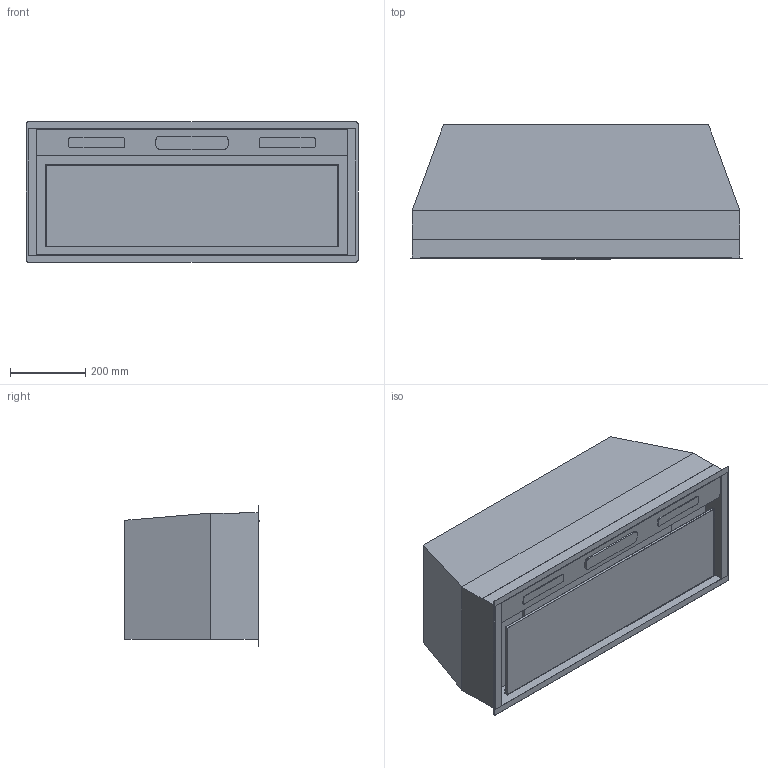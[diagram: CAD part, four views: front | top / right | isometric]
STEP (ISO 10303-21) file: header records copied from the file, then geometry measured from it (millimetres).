
FILE_DESCRIPTION((''),'2;1');
FILE_NAME('HBN65366SS_WEB_CAD_MODEL','2025-04-29T08:39:14',('BoutinM'),(''),'CREO PARAMETRIC BY PTC INC, 2023424','CREO PARAMETRIC BY PTC INC, 2023424','');
FILE_SCHEMA(('CONFIG_CONTROL_DESIGN','SHAPE_APPEARANCE_LAYERS_GROUPS'));
Length unit declared in the file: inch
Products named in the file (1): HBN65366SS_WEB_CAD_MODEL
Bounding box: 884.61 x 357.38 x 373.1 mm (x, y, z)
Volume: 84231280.9 mm3; surface area: 1966585.8 mm2
Topology: 2 solids, 2 shells, 78 faces, 199 edges, 132 vertices
Faces by surface type: plane 62, cylinder 16
Entity records: 3731 total; most frequent: CARTESIAN_POINT 409, ORIENTED_EDGE 398, DIRECTION 387, COLOUR_RGB 290, PRESENTATION_STYLE_ASSIGNMENT 238, STYLED_ITEM 201, CURVE_STYLE 199, EDGE_CURVE 199
